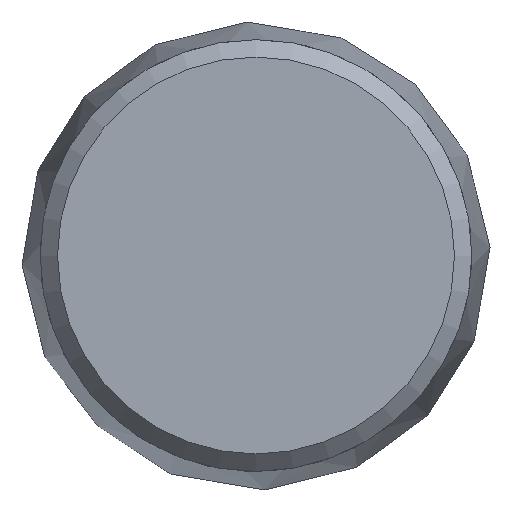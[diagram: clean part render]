
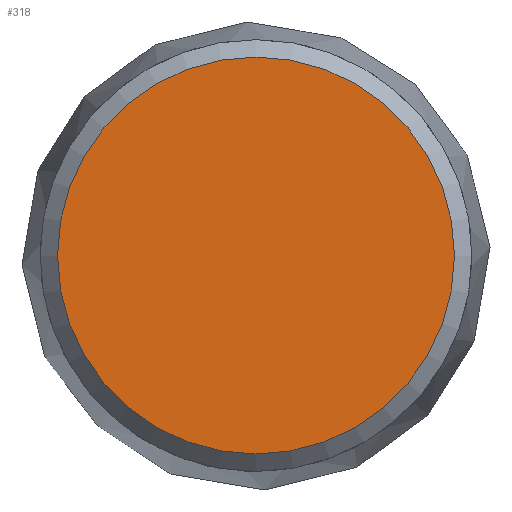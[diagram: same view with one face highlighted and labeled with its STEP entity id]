
A CAD part, top view. The second image highlights one B-rep face of the part: STEP entity #318.
In plain terms, the highlighted planar face has unit normal (0, 0, 1).
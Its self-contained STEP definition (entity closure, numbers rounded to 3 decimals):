
#61=PLANE('',#379);
#107=FACE_OUTER_BOUND('',#146,.T.);
#146=EDGE_LOOP('',(#257));
#170=CIRCLE('',#378,11.4);
#193=VERTEX_POINT('',#586);
#216=EDGE_CURVE('',#193,#193,#170,.T.);
#257=ORIENTED_EDGE('',*,*,#216,.F.);
#318=ADVANCED_FACE('',(#107),#61,.T.);
#378=AXIS2_PLACEMENT_3D('',#587,#481,#482);
#379=AXIS2_PLACEMENT_3D('',#588,#483,#484);
#481=DIRECTION('center_axis',(0.,0.,-1.));
#482=DIRECTION('ref_axis',(-1.,0.,0.));
#483=DIRECTION('center_axis',(0.,0.,1.));
#484=DIRECTION('ref_axis',(0.,-1.,0.));
#586=CARTESIAN_POINT('',(11.4,0.,80.5));
#587=CARTESIAN_POINT('Origin',(0.,0.,80.5));
#588=CARTESIAN_POINT('Origin',(6.2,0.,80.5));
